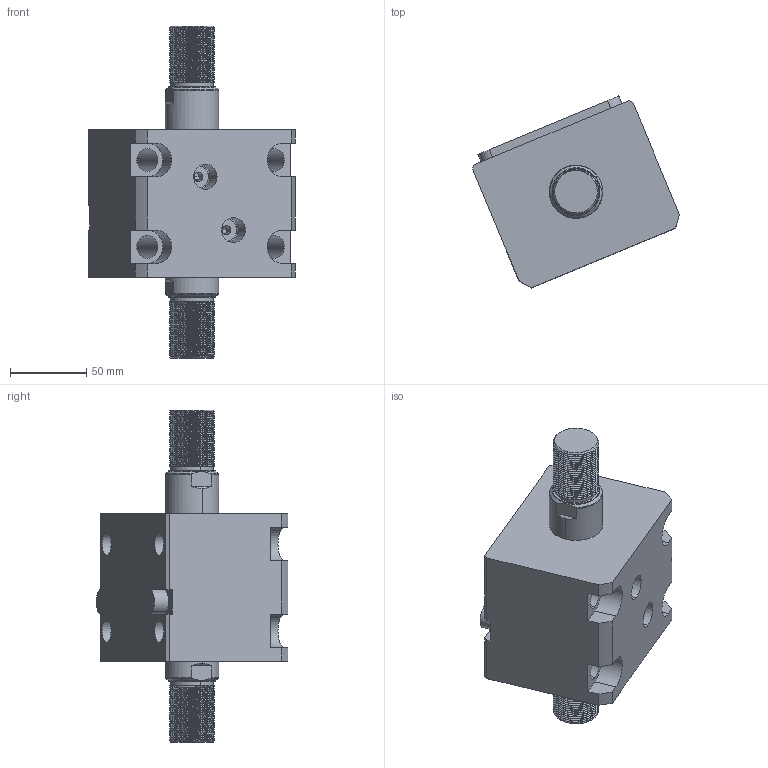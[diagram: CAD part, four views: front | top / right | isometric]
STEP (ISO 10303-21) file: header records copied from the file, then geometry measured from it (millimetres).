
FILE_DESCRIPTION (( 'STEP AP214' ), '1' );
FILE_NAME ('chtb-lw63x15w_asm.STEP', '2018-05-18T07:57:37', ( 'Windows' ), ( 'Microsoft' ), 'SwSTEP 2.0', 'SolidWorks 2015', '' );
FILE_SCHEMA (( 'AUTOMOTIVE_DESIGN' ));
Length unit declared in the file: millimetre
Products named in the file (5): chtb-lw63x15w_asm; CHTB-63QG; CHTB-SW63X15WHSG; CHTB-LW63X15NBT; CHTB-LA63PJ
Assembly tree (4 placements, depth 2):
  chtb-lw63x15w_asm
    CHTB-63QG
    CHTB-LA63PJ
    CHTB-LW63X15NBT
    CHTB-SW63X15WHSG
Bounding box: 135.77 x 126.06 x 218 mm (x, y, z)
Volume: 965065.5 mm3; surface area: 152388.5 mm2
Topology: 4 solids, 4 shells, 306 faces, 889 edges, 601 vertices
Faces by surface type: cylinder 204, plane 58, bspline 16, cone 16, torus 12
Entity records: 27878 total; most frequent: CARTESIAN_POINT 20531, ORIENTED_EDGE 1770, DIRECTION 1228, EDGE_CURVE 885, VERTEX_POINT 601, AXIS2_PLACEMENT_3D 458, EDGE_LOOP 336, LINE 312
